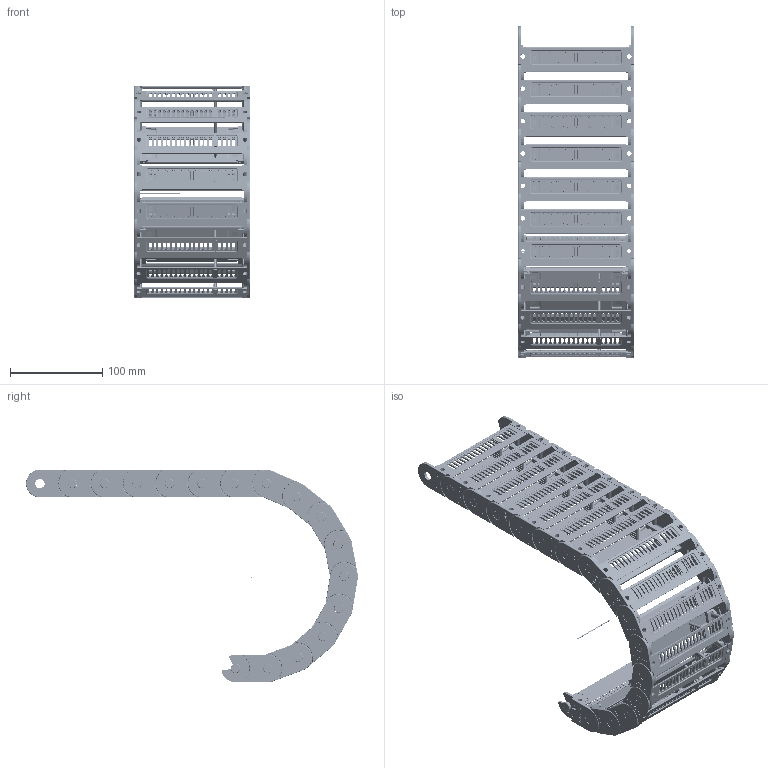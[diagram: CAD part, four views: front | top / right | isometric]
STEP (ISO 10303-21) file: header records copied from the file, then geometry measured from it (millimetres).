
FILE_DESCRIPTION((''),'2;1');
FILE_NAME('C:\Uebbing\PARAMETERKETTEN\KOLIBRI\Kol_30_125_0\Kol 30_125_0_R100.stp','2012-03-05T12:27:55',('Uebbing'),(''),'Autodesk Inventor 10','Autodesk Inventor 10','');
FILE_SCHEMA(('AUTOMOTIVE_DESIGN { 1 0 10303 214 1 1 1 1 }'));
Length unit declared in the file: millimetre
Products named in the file (6): KOLIBRI 30_125_0_PARAMETRISCH; Achse; Kol_30_125_0; PZ 30 Stecksteg; Kol_30_125_0_Klappsteg; Kol 30_125_0 Lasche
Assembly tree (20 placements, depth 3):
  KOLIBRI 30_125_0_PARAMETRISCH
    Achse
    Kol_30_125_0  x16
      PZ 30 Stecksteg
      Kol_30_125_0_Klappsteg
      Kol 30_125_0 Lasche
Bounding box: 125 x 358.89 x 230 mm (x, y, z)
Volume: 377472.6 mm3; surface area: 364113.8 mm2
Topology: 49 solids, 49 shells, 19763 faces, 53732 edges, 34435 vertices
Faces by surface type: plane 9826, cylinder 4913, bspline 2256, torus 2096, cone 576, sphere 96
Full cylindrical faces by diameter (mm): 1 x1, 1.166 x16, 2.048 x16, 2.8 x128, 5.1 x32, 10 x32, 10.1 x32
Entity records: 43100 total; most frequent: CARTESIAN_POINT 12072, ORIENTED_EDGE 6636, DIRECTION 6204, EDGE_CURVE 3318, VERTEX_POINT 2140, AXIS2_PLACEMENT_3D 2113, VECTOR 1978, LINE 1978
